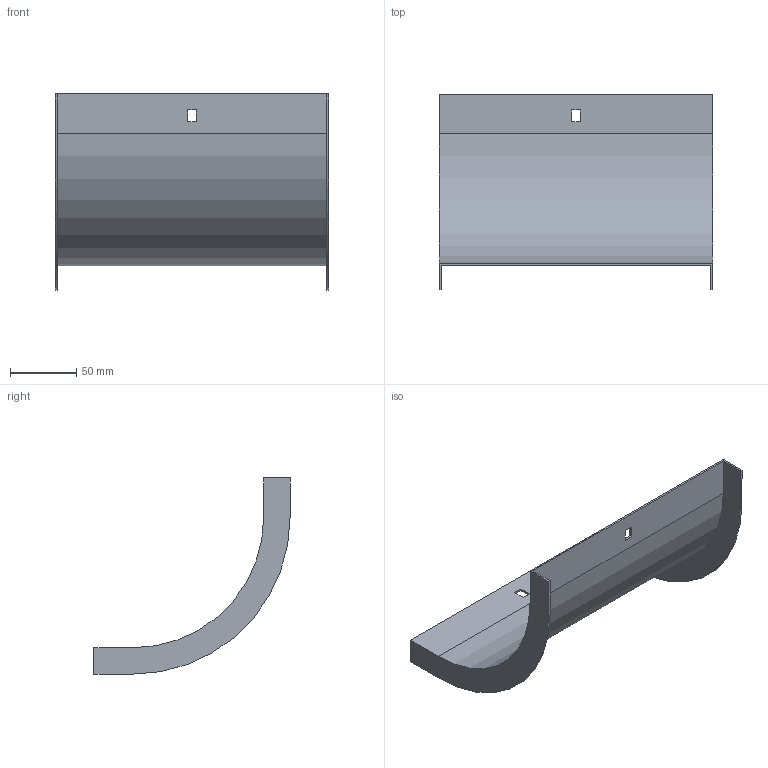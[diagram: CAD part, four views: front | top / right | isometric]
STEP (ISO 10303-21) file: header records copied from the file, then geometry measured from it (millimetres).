
FILE_DESCRIPTION (( 'STEP AP214' ), '1' );
FILE_NAME ('30G1P200.step', '2025-02-21T12:48:27', ( '' ), ( '' ), 'SwSTEP 2.0', 'SolidWorks 2023', '' );
FILE_SCHEMA (( 'AUTOMOTIVE_DESIGN' ));
Length unit declared in the file: millimetre
Products named in the file (1): 30G1P200
Bounding box: 207 x 148.5 x 148.5 mm (x, y, z)
Volume: 79716.3 mm3; surface area: 107848.2 mm2
Topology: 1 solids, 1 shells, 26 faces, 72 edges, 48 vertices
Faces by surface type: plane 22, cylinder 4
Entity records: 855 total; most frequent: CARTESIAN_POINT 147, ORIENTED_EDGE 144, DIRECTION 134, EDGE_CURVE 72, LINE 64, VECTOR 64, VERTEX_POINT 48, AXIS2_PLACEMENT_3D 35
